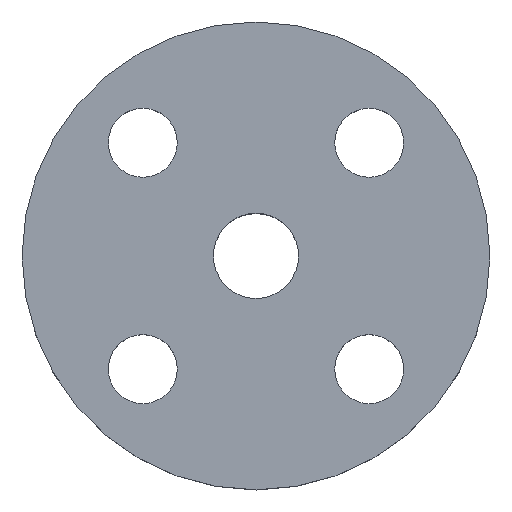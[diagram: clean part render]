
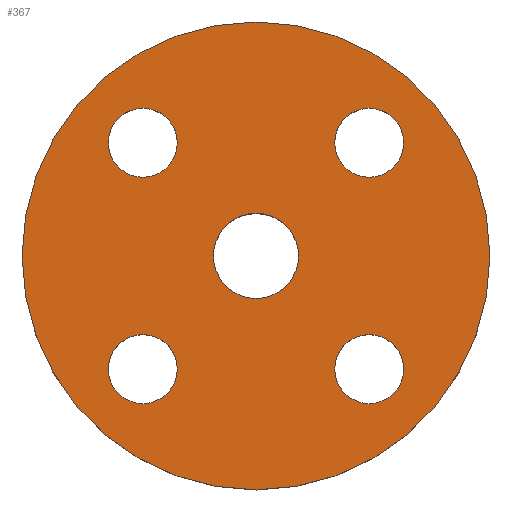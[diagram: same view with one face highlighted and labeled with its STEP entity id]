
A CAD part, top view. The second image highlights one B-rep face of the part: STEP entity #367.
In plain terms, the highlighted planar face has unit normal (0, 0, 1).
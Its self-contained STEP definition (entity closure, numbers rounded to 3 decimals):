
#1 = EDGE_CURVE ( 'NONE', #449, #633, #315, .T. ) ;
#4 = AXIS2_PLACEMENT_3D ( 'NONE', #642, #643, #645 ) ;
#8 = EDGE_CURVE ( 'NONE', #443, #445, #261, .T. ) ;
#56 = CIRCLE ( 'NONE', #57, 8.65 ) ;
#57 = AXIS2_PLACEMENT_3D ( 'NONE', #730, #731, #733 ) ;
#59 = CIRCLE ( 'NONE', #63, 47.5 ) ;
#60 = DIRECTION ( 'NONE',  ( -1., 0., 0. ) ) ;
#61 = DIRECTION ( 'NONE',  ( 0., 0., -1. ) ) ;
#63 = AXIS2_PLACEMENT_3D ( 'NONE', #734, #735, #736 ) ;
#71 = AXIS2_PLACEMENT_3D ( 'NONE', #299, #61, #60 ) ;
#74 = CIRCLE ( 'NONE', #75, 7. ) ;
#75 = AXIS2_PLACEMENT_3D ( 'NONE', #307, #308, #310 ) ;
#85 = CARTESIAN_POINT ( 'NONE',  ( -29.981, 22.981, 0. ) ) ;
#89 = AXIS2_PLACEMENT_3D ( 'NONE', #336, #337, #338 ) ;
#98 = CIRCLE ( 'NONE', #99, 47.5 ) ;
#99 = AXIS2_PLACEMENT_3D ( 'NONE', #356, #357, #358 ) ;
#100 = CIRCLE ( 'NONE', #101, 7. ) ;
#101 = AXIS2_PLACEMENT_3D ( 'NONE', #359, #360, #361 ) ;
#116 = CIRCLE ( 'NONE', #119, 7. ) ;
#119 = AXIS2_PLACEMENT_3D ( 'NONE', #376, #377, #378 ) ;
#135 = EDGE_CURVE ( 'NONE', #633, #449, #56, .T. ) ;
#154 = EDGE_CURVE ( 'NONE', #634, #439, #59, .T. ) ;
#166 = DIRECTION ( 'NONE',  ( -1., 0., 0. ) ) ;
#168 = DIRECTION ( 'NONE',  ( 0., 0., -1. ) ) ;
#170 = CARTESIAN_POINT ( 'NONE',  ( -22.981, 22.981, 0. ) ) ;
#171 = CARTESIAN_POINT ( 'NONE',  ( 47.5, 0., 0. ) ) ;
#172 = CARTESIAN_POINT ( 'NONE',  ( 8.65, 0., 0. ) ) ;
#175 = CARTESIAN_POINT ( 'NONE',  ( -15.981, -22.981, 0. ) ) ;
#180 = CARTESIAN_POINT ( 'NONE',  ( -15.981, 22.981, 0. ) ) ;
#202 = DIRECTION ( 'NONE',  ( -1., 0., 0. ) ) ;
#204 = DIRECTION ( 'NONE',  ( 0., 0., -1. ) ) ;
#205 = CARTESIAN_POINT ( 'NONE',  ( 22.981, 22.981, 0. ) ) ;
#212 = CARTESIAN_POINT ( 'NONE',  ( 15.981, -22.981, 0. ) ) ;
#223 = CIRCLE ( 'NONE', #228, 7. ) ;
#226 = EDGE_CURVE ( 'NONE', #468, #629, #256, .T. ) ;
#228 = AXIS2_PLACEMENT_3D ( 'NONE', #205, #204, #202 ) ;
#243 = CIRCLE ( 'NONE', #245, 7. ) ;
#245 = AXIS2_PLACEMENT_3D ( 'NONE', #170, #168, #166 ) ;
#251 = AXIS2_PLACEMENT_3D ( 'NONE', #304, #305, #306 ) ;
#253 = CIRCLE ( 'NONE', #251, 7. ) ;
#256 = CIRCLE ( 'NONE', #71, 7. ) ;
#261 = CIRCLE ( 'NONE', #4, 7. ) ;
#262 = EDGE_CURVE ( 'NONE', #471, #575, #253, .T. ) ;
#264 = CARTESIAN_POINT ( 'NONE',  ( -29.981, -22.981, 0. ) ) ;
#281 = EDGE_CURVE ( 'NONE', #575, #471, #74, .T. ) ;
#299 = CARTESIAN_POINT ( 'NONE',  ( -22.981, 22.981, 0. ) ) ;
#304 = CARTESIAN_POINT ( 'NONE',  ( 22.981, -22.981, 0. ) ) ;
#305 = DIRECTION ( 'NONE',  ( 0., 0., -1. ) ) ;
#306 = DIRECTION ( 'NONE',  ( -1., 0., 0. ) ) ;
#307 = CARTESIAN_POINT ( 'NONE',  ( 22.981, -22.981, 0. ) ) ;
#308 = DIRECTION ( 'NONE',  ( 0., 0., -1. ) ) ;
#310 = DIRECTION ( 'NONE',  ( -1., 0., 0. ) ) ;
#313 = AXIS2_PLACEMENT_3D ( 'NONE', #635, #636, #637 ) ;
#315 = CIRCLE ( 'NONE', #313, 8.65 ) ;
#329 = FACE_BOUND ( 'NONE', #463, .T. ) ;
#330 = FACE_BOUND ( 'NONE', #477, .T. ) ;
#331 = FACE_BOUND ( 'NONE', #620, .T. ) ;
#332 = FACE_BOUND ( 'NONE', #466, .T. ) ;
#333 = FACE_BOUND ( 'NONE', #590, .T. ) ;
#334 = FACE_OUTER_BOUND ( 'NONE', #540, .T. ) ;
#335 = PLANE ( 'NONE',  #89 ) ;
#336 = CARTESIAN_POINT ( 'NONE',  ( 0., 0., 0. ) ) ;
#337 = DIRECTION ( 'NONE',  ( 0., 0., 1. ) ) ;
#338 = DIRECTION ( 'NONE',  ( 1., 0., 0. ) ) ;
#356 = CARTESIAN_POINT ( 'NONE',  ( 0., 0., 0. ) ) ;
#357 = DIRECTION ( 'NONE',  ( 0., 0., 1. ) ) ;
#358 = DIRECTION ( 'NONE',  ( 1., 0., 0. ) ) ;
#359 = CARTESIAN_POINT ( 'NONE',  ( -22.981, -22.981, 0. ) ) ;
#360 = DIRECTION ( 'NONE',  ( 0., 0., -1. ) ) ;
#361 = DIRECTION ( 'NONE',  ( -1., 0., 0. ) ) ;
#367 = ADVANCED_FACE ( 'NONE', ( #329, #330, #331, #332, #333, #334 ), #335, .T. ) ;
#376 = CARTESIAN_POINT ( 'NONE',  ( -22.981, -22.981, 0. ) ) ;
#377 = DIRECTION ( 'NONE',  ( 0., 0., -1. ) ) ;
#378 = DIRECTION ( 'NONE',  ( -1., 0., 0. ) ) ;
#395 = EDGE_CURVE ( 'NONE', #439, #634, #98, .T. ) ;
#399 = EDGE_CURVE ( 'NONE', #631, #482, #100, .T. ) ;
#408 = CARTESIAN_POINT ( 'NONE',  ( -47.5, 0., 0. ) ) ;
#415 = CARTESIAN_POINT ( 'NONE',  ( 29.981, 22.981, 0. ) ) ;
#418 = CARTESIAN_POINT ( 'NONE',  ( 29.981, -22.981, 0. ) ) ;
#420 = CARTESIAN_POINT ( 'NONE',  ( 15.981, 22.981, 0. ) ) ;
#423 = CARTESIAN_POINT ( 'NONE',  ( -8.65, 0., 0. ) ) ;
#429 = EDGE_CURVE ( 'NONE', #482, #631, #116, .T. ) ;
#439 = VERTEX_POINT ( 'NONE', #408 ) ;
#443 = VERTEX_POINT ( 'NONE', #415 ) ;
#445 = VERTEX_POINT ( 'NONE', #420 ) ;
#449 = VERTEX_POINT ( 'NONE', #423 ) ;
#463 = EDGE_LOOP ( 'NONE', ( #584, #585 ) ) ;
#466 = EDGE_LOOP ( 'NONE', ( #591, #592 ) ) ;
#468 = VERTEX_POINT ( 'NONE', #85 ) ;
#471 = VERTEX_POINT ( 'NONE', #418 ) ;
#477 = EDGE_LOOP ( 'NONE', ( #586, #587 ) ) ;
#482 = VERTEX_POINT ( 'NONE', #264 ) ;
#540 = EDGE_LOOP ( 'NONE', ( #596, #597 ) ) ;
#575 = VERTEX_POINT ( 'NONE', #212 ) ;
#584 = ORIENTED_EDGE ( 'NONE', *, *, #262, .T. ) ;
#585 = ORIENTED_EDGE ( 'NONE', *, *, #281, .T. ) ;
#586 = ORIENTED_EDGE ( 'NONE', *, *, #399, .T. ) ;
#587 = ORIENTED_EDGE ( 'NONE', *, *, #429, .T. ) ;
#588 = ORIENTED_EDGE ( 'NONE', *, *, #658, .T. ) ;
#589 = ORIENTED_EDGE ( 'NONE', *, *, #226, .T. ) ;
#590 = EDGE_LOOP ( 'NONE', ( #593, #595 ) ) ;
#591 = ORIENTED_EDGE ( 'NONE', *, *, #8, .T. ) ;
#592 = ORIENTED_EDGE ( 'NONE', *, *, #594, .T. ) ;
#593 = ORIENTED_EDGE ( 'NONE', *, *, #1, .T. ) ;
#594 = EDGE_CURVE ( 'NONE', #445, #443, #223, .T. ) ;
#595 = ORIENTED_EDGE ( 'NONE', *, *, #135, .T. ) ;
#596 = ORIENTED_EDGE ( 'NONE', *, *, #154, .T. ) ;
#597 = ORIENTED_EDGE ( 'NONE', *, *, #395, .T. ) ;
#620 = EDGE_LOOP ( 'NONE', ( #588, #589 ) ) ;
#629 = VERTEX_POINT ( 'NONE', #180 ) ;
#631 = VERTEX_POINT ( 'NONE', #175 ) ;
#633 = VERTEX_POINT ( 'NONE', #172 ) ;
#634 = VERTEX_POINT ( 'NONE', #171 ) ;
#635 = CARTESIAN_POINT ( 'NONE',  ( 0., 0., 0. ) ) ;
#636 = DIRECTION ( 'NONE',  ( 0., 0., -1. ) ) ;
#637 = DIRECTION ( 'NONE',  ( -1., 0., 0. ) ) ;
#642 = CARTESIAN_POINT ( 'NONE',  ( 22.981, 22.981, 0. ) ) ;
#643 = DIRECTION ( 'NONE',  ( 0., 0., -1. ) ) ;
#645 = DIRECTION ( 'NONE',  ( -1., 0., 0. ) ) ;
#658 = EDGE_CURVE ( 'NONE', #629, #468, #243, .T. ) ;
#730 = CARTESIAN_POINT ( 'NONE',  ( 0., 0., 0. ) ) ;
#731 = DIRECTION ( 'NONE',  ( 0., 0., -1. ) ) ;
#733 = DIRECTION ( 'NONE',  ( -1., 0., 0. ) ) ;
#734 = CARTESIAN_POINT ( 'NONE',  ( 0., 0., 0. ) ) ;
#735 = DIRECTION ( 'NONE',  ( 0., 0., 1. ) ) ;
#736 = DIRECTION ( 'NONE',  ( 1., 0., 0. ) ) ;
